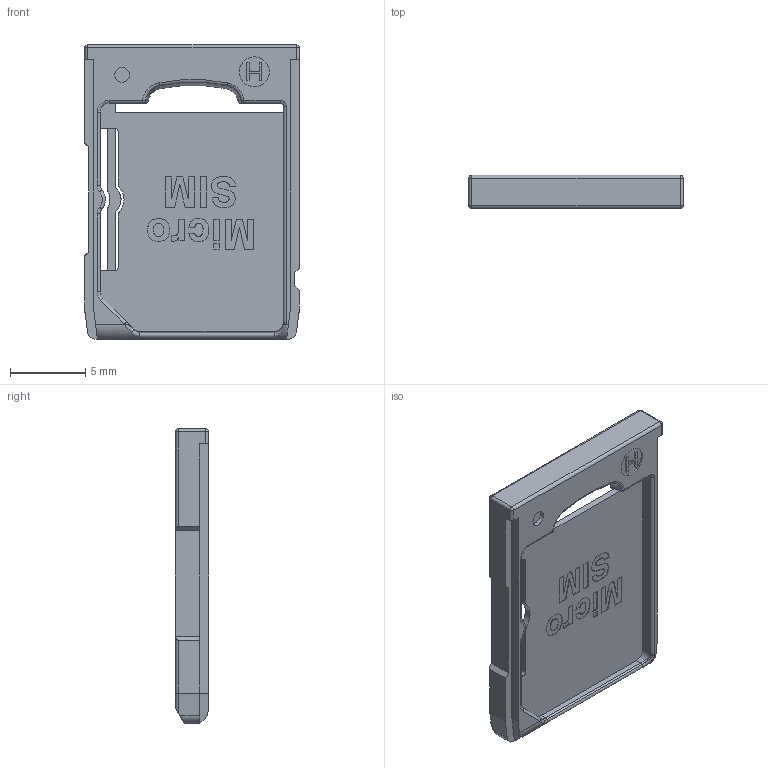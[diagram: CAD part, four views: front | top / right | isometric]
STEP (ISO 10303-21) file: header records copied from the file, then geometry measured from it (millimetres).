
FILE_DESCRIPTION((''),'2;1');
FILE_NAME('115U-T010_C_2','2025-06-24T',('fros.liao'),(''),'CREO PARAMETRIC BY PTC INC, 2015080','CREO PARAMETRIC BY PTC INC, 2015080','');
FILE_SCHEMA(('CONFIG_CONTROL_DESIGN'));
Length unit declared in the file: millimetre
Products named in the file (1): 115U-T010_C_2
Bounding box: 14.3 x 2.2 x 19.6 mm (x, y, z)
Volume: 227.9 mm3; surface area: 781.2 mm2
Topology: 1 solids, 2 shells, 450 faces, 1246 edges, 807 vertices
Faces by surface type: plane 188, extrusion 144, cylinder 70, torus 25, sphere 10, bspline 7, cone 6
Entity records: 15296 total; most frequent: CARTESIAN_POINT 4343, ORIENTED_EDGE 2463, DIRECTION 1829, EDGE_CURVE 1236, VECTOR 857, VERTEX_POINT 807, LINE 713, AXIS2_PLACEMENT_3D 486
